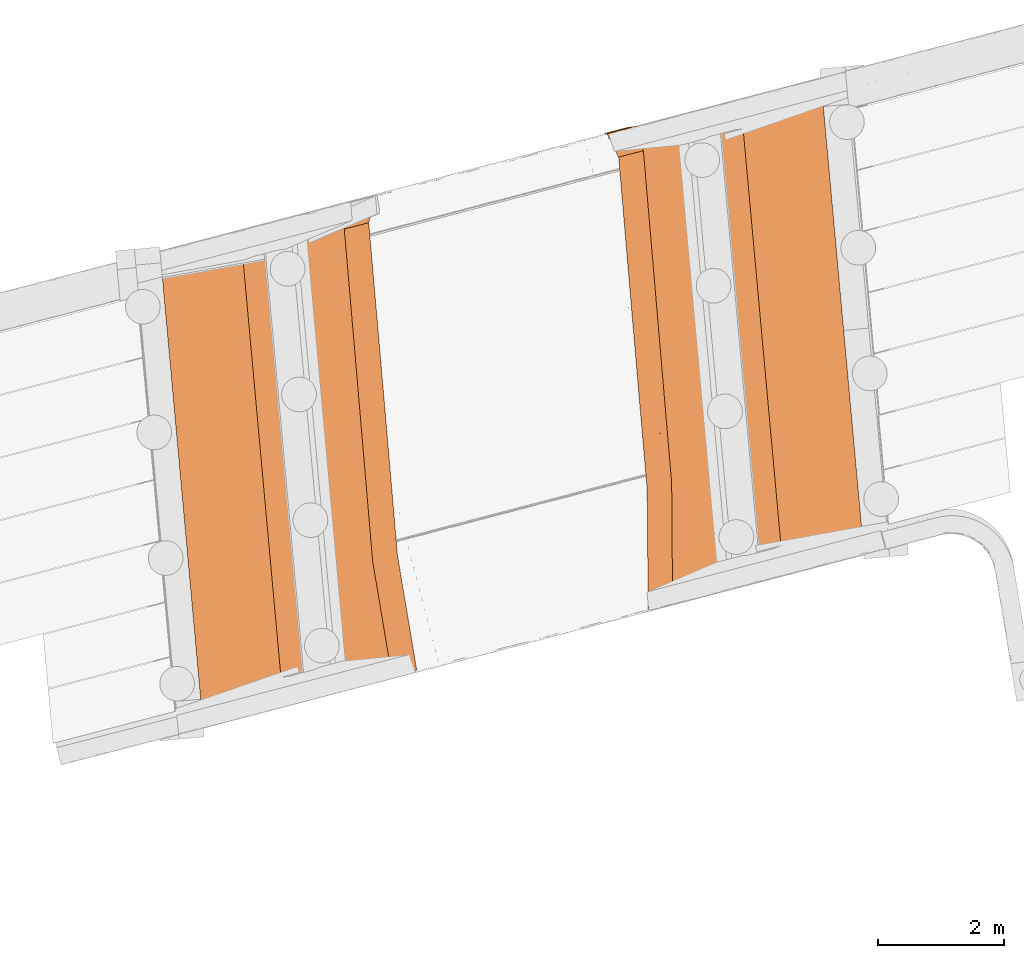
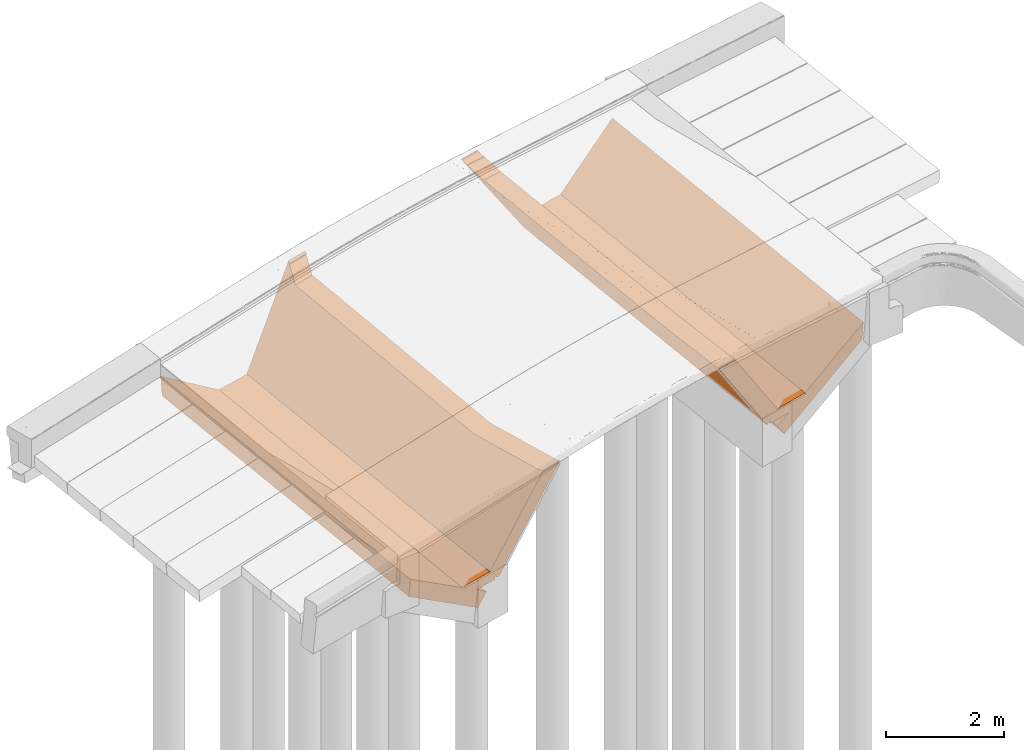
# One storey, part 15 of 15: 1 proxy.
"""IFC2X3 building model written with IfcOpenShell, lengths in millimetres."""

from ifc_helpers import new_model, entity, si_unit, converted_unit, derived_unit, direction, frame, origin, place, context, subcontext, project, spatial, faceted_brep, source, transform, mapped, material, type_object, type_shapes, element, save


model = new_model("IFC2X3")

# Units and contexts
model_context = context("Model", 3, precision=0.01, world=origin(), true_north=direction((6.12303176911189e-17, 1.0)))
body_context = subcontext(model_context, "Body", "Model", "MODEL_VIEW")
ifc_project = project(units=[si_unit("LENGTHUNIT", "METRE", prefix="MILLI"), si_unit("AREAUNIT", "SQUARE_METRE"), si_unit("VOLUMEUNIT", "CUBIC_METRE"), converted_unit("PLANEANGLEUNIT", "DEGREE", entity("IfcRatioMeasure", 0.0174532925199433), si_unit("PLANEANGLEUNIT", "RADIAN"), dimensions=[0, 0, 0, 0, 0, 0, 0]), si_unit("MASSUNIT", "GRAM", prefix="KILO"), derived_unit("MASSDENSITYUNIT", [(si_unit("MASSUNIT", "GRAM", prefix="KILO"), 1), (si_unit("LENGTHUNIT", "METRE"), -3)]), si_unit("TIMEUNIT", "SECOND"), si_unit("FREQUENCYUNIT", "HERTZ"), si_unit("THERMODYNAMICTEMPERATUREUNIT", "DEGREE_CELSIUS"), derived_unit("THERMALTRANSMITTANCEUNIT", [(si_unit("MASSUNIT", "GRAM", prefix="KILO"), 1), (si_unit("THERMODYNAMICTEMPERATUREUNIT", "KELVIN"), -1), (si_unit("TIMEUNIT", "SECOND"), -3)]), derived_unit("VOLUMETRICFLOWRATEUNIT", [(si_unit("LENGTHUNIT", "METRE"), 3), (si_unit("TIMEUNIT", "SECOND"), -1)]), si_unit("ELECTRICCURRENTUNIT", "AMPERE"), si_unit("ELECTRICVOLTAGEUNIT", "VOLT"), si_unit("POWERUNIT", "WATT"), si_unit("FORCEUNIT", "NEWTON", prefix="KILO"), si_unit("ILLUMINANCEUNIT", "LUX"), si_unit("LUMINOUSFLUXUNIT", "LUMEN"), si_unit("LUMINOUSINTENSITYUNIT", "CANDELA"), derived_unit("USERDEFINED", [(si_unit("MASSUNIT", "GRAM", prefix="KILO"), -1), (si_unit("LENGTHUNIT", "METRE"), -2), (si_unit("TIMEUNIT", "SECOND"), 3), (si_unit("LUMINOUSFLUXUNIT", "LUMEN"), 1)]), derived_unit("LINEARVELOCITYUNIT", [(si_unit("LENGTHUNIT", "METRE"), 1), (si_unit("TIMEUNIT", "SECOND"), -1)]), si_unit("PRESSUREUNIT", "PASCAL"), derived_unit("USERDEFINED", [(si_unit("LENGTHUNIT", "METRE"), -2), (si_unit("MASSUNIT", "GRAM", prefix="KILO"), 1), (si_unit("TIMEUNIT", "SECOND"), -2)])], contexts=[model_context])

# Site, building, storey
site_placement = place(None, origin())
site = spatial("IfcSite", under=ifc_project, at=site_placement, Name="Bruggen Achterburggracht Machinesloot", CompositionType="ELEMENT")
building_placement = place(site_placement, origin())
building = spatial("IfcBuilding", under=site, at=building_placement, Name="Bruggen Achterburggracht Machinesloot", CompositionType="ELEMENT")
storey_placement = place(building_placement, origin())
storey = spatial("IfcBuildingStorey", under=building, at=storey_placement, Name="00 begane grond", CompositionType="ELEMENT", Elevation=2.70716782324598e-13)

# Proxy
ifc_material = material(Name="00_PBT_MAT_beton t.p.g.")
building_element_proxy_type = type_object("IfcBuildingElementProxyType", Name="brug 1 wand 2", PredefinedType="NOTDEFINED", material=ifc_material)
shared_shape = source(origin(), body_context, "Body", "Brep", [
    faceted_brep([(1713.14463223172, 7610.12284993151, 2.00953067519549e-09), (2348.89387835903, 616.238391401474, 0.0), (2260.33549412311, 586.100991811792, 61.3283533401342), (662.98703963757, 42.5056103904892, 1167.5223209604), (28.0180274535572, 7027.80670647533, 1167.52232097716), (3.86379127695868, 7293.52772466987, 1167.5223209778), (1623.35844355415, 7593.49254028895, 61.3283533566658), (24.1578379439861, 7070.27269378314, 1553.5120644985), (666.850830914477, 0.0, 1553.51206448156), (1931.78347735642, 430.470597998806, 677.522320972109), (1307.30464440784, 7300.36911705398, 677.522320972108), (1282.47011520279, 7573.57404635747, 677.522320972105), (0.0, 7336.03333506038, 1553.51206449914), (1642.25746598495, 7640.21430737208, 431.769983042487), (2286.65082311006, 551.235888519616, 431.769983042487), (2527.04565404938, 633.044913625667, 265.292023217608), (1885.98521495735, 7685.35786445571, 265.292023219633), (2574.18967358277, 598.930258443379, 677.522320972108), (1924.87631140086, 7742.03370679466, 677.522320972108), (1617.19028774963, 7661.34849022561, 677.522320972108), (1328.52315574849, 7585.65064153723, 677.522320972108), (2266.50364992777, 518.24504187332, 677.522320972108), (2063.60151270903, 7750.70432981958, 431.769983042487), (2707.99486983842, 661.725910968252, 431.769983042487), (2062.94511608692, 7757.92535628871, 497.343495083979), (2708.65126646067, 654.504884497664, 497.343495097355), (3403.74178354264, 8320.25192405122, 2366.3788150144), (3398.37237429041, 8298.4185621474, 2355.52071377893), (3393.00170654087, 8276.58635676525, 2344.66090962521), (3400.61427419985, 8278.58261796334, 2356.16858737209), (3397.89569719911, 8267.53141575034, 2350.67147065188), (3395.17679754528, 8256.48051009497, 2345.1739173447), (3387.56299013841, 8254.4839237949, 2333.66436551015), (3372.85536962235, 8194.74578011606, 2303.93134610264), (3358.13829586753, 8135.01638714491, 2274.18554369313), (3343.41174648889, 8075.29577100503, 2244.4269287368), (3328.67569902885, 8015.58395792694, 2214.65547159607), (3313.93013095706, 7955.88097424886, 2184.8711425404), (3299.17514438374, 7896.18735076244, 2155.07416357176), (3356.42456153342, 7239.73415244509, 2151.49716752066), (3415.63848673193, 6560.75482799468, 2147.79742720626), (3531.00693716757, 5229.6385894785, 2139.4834113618), (3645.27806685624, 3902.86665900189, 2130.13229107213), (3645.7430254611, 3901.0180986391, 2130.57069017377), (3753.68094237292, 2632.62821019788, 2119.70435049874), (4054.76780099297, 837.28304301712, 2323.29330593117), (4061.69435636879, 839.099409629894, 2333.76396060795), (4065.01577786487, 819.294167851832, 2336.0098398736), (4058.08922248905, 817.477801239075, 2325.53918519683), (4060.56585998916, 802.70990606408, 2327.21383829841), (2952.74712654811, 698.200253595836, 677.522320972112), (2792.67598048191, 683.099425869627, 439.154793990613), (2148.13477811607, 7773.70429154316, 439.154793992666), (2303.43376436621, 7841.30370194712, 677.522320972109), (2305.95096355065, 7842.39940247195, 681.385955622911), (3400.73143284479, 8318.94156178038, 2361.75824492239), (3666.12892985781, 714.693148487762, 2305.27853640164), (3673.05548523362, 716.509515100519, 2315.74919107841), (3669.73406373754, 736.314756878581, 2313.50331181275), (3662.80750836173, 734.498390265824, 2303.032657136), (3361.72064974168, 2529.84355744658, 2099.44370170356), (3052.52892596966, 6163.18823596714, 2130.57069017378), (3052.06396736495, 6165.03679632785, 2130.1322910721), (2982.04735219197, 6978.9763621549, 2135.99550111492), (2911.61688476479, 7794.55705329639, 2141.46792884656), (2926.53949022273, 7854.29361219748, 2171.51815512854), (2941.45240039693, 7914.03987817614, 2201.55536939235), (2956.35550870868, 7973.7953033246, 2231.57934074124), (2971.24883850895, 8033.55986006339, 2261.59009995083), (2986.13241307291, 8093.3335209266, 2291.58767769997), (3001.0062556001, 8153.1162585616, 2321.57210457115), (3008.66505003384, 8155.12464191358, 2333.14966187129), (3011.41458034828, 8166.18357311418, 2338.69351766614), (3014.16377853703, 8177.2428119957, 2344.23692438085), (3006.50626988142, 8175.23476581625, 2332.66131075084), (3011.74892910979, 8196.32443429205, 2343.23245595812), (3016.99038123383, 8217.41522084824, 2353.80196896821), (3009.30658329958, 8214.07057435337, 2342.00815140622), (1944.27716542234, 7750.4786189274, 707.300580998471), (3668.23406727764, 702.14046415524, 2306.70198852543), (3081.43476569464, 8234.57786353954, 2356.13679939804), (3145.88500897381, 8251.73127882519, 2358.37616061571), (3210.34096590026, 8268.87542804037, 2360.52004733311), (3274.80250297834, 8286.01027565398, 2362.56845490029), (3339.26948669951, 8303.13578615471, 2364.52137887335), (3199.74234009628, 8225.90750677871, 2339.06458634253), (3131.5183567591, 8208.01697406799, 2348.10541549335), (3207.37741274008, 8227.90966951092, 2350.60604297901), (3283.2455436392, 8247.80474469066, 2352.78999402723), (3277.83420105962, 8225.70949002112, 2341.76863678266), (3125.99338830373, 8185.89192302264, 2337.04491799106), (3201.90926449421, 8205.79951856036, 2339.56529615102), (3194.27293003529, 8203.79702493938, 2328.02193090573), (3105.38263648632, 7845.36869386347, 2148.6783098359)], [[[0, 1, 2, 3, 4, 5, 6]], [[7, 8, 9, 10, 11, 12]], [[13, 14, 15, 16]], [[1, 0, 16, 15]], [[17, 18, 19, 20, 11, 10, 9, 21]], [[14, 13, 22, 23]], [[24, 25, 23, 22]], [[26, 27, 28, 29, 30, 31, 32, 33, 34, 35, 36, 37, 38, 39, 40, 41, 42, 43, 44, 45, 46, 47, 48, 49, 50, 51, 52, 53, 54, 55]], [[56, 57, 58, 59, 60, 61, 62, 63, 64, 65, 66, 67, 68, 69, 70, 71, 72, 73, 74, 75, 76, 77, 78, 18, 17, 79]], [[52, 51, 25, 24]], [[55, 54, 53, 52, 24, 22, 13, 16, 0, 6, 5, 12, 11, 20, 19, 18, 78, 77, 76, 80, 81, 82, 83, 84, 26]], [[25, 51, 50, 49, 79, 17, 21, 9, 8, 3, 2, 1, 15, 14, 23]], [[3, 8, 7, 12, 5, 4]], [[56, 79, 49, 48]], [[60, 59, 45, 44]], [[57, 56, 48, 47]], [[58, 57, 47, 46]], [[58, 46, 45, 59]], [[60, 44, 43, 61]], [[43, 42, 62, 61]], [[80, 76, 75]], [[81, 80, 75]], [[85, 75, 74]], [[81, 75, 85]], [[85, 82, 81]], [[84, 83, 27]], [[26, 84, 27]], [[85, 28, 27]], [[83, 82, 27]], [[82, 85, 27]], [[85, 74, 73, 86, 87, 88, 29, 28]], [[87, 89, 88]], [[86, 73, 72]], [[89, 31, 30]], [[72, 90, 86]], [[87, 86, 91]], [[30, 88, 89]], [[72, 71, 90]], [[87, 91, 89]], [[30, 29, 88]], [[91, 86, 90]], [[71, 70, 92, 32, 31, 89, 91, 90]], [[37, 67, 93]], [[69, 68, 35]], [[68, 67, 36]], [[93, 65, 64]], [[65, 93, 66]], [[67, 66, 93]], [[92, 70, 69]], [[35, 34, 92]], [[33, 92, 34]], [[92, 33, 32]], [[38, 37, 93]], [[37, 36, 67]], [[68, 36, 35]], [[69, 35, 92]], [[42, 41, 62]], [[93, 40, 39, 38]], [[63, 62, 41]], [[41, 40, 63]], [[93, 64, 40]], [[40, 64, 63]]]),
    faceted_brep([(8563.97688968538, 9521.69501440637, 677.522320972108), (9216.72395467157, 2340.81736360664, 677.522320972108), (9524.41050085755, 2421.5027172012, 677.522320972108), (9859.13067340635, 2509.27716106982, 677.522320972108), (9206.3836084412, 9690.15481187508, 677.522320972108), (8851.51626268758, 9569.38952135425, 431.769983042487), (9499.34332262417, 2442.63690005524, 431.769983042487), (9076.06468684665, 2331.63956585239, 431.769983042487), (8428.23762690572, 9458.39218715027, 431.769983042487), (9076.70776848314, 2324.56501768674, 496.013338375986), (8427.5945452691, 9465.46673531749, 496.01333839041), (9431.68164567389, 2473.32578663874, 2.20316677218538), (8792.45458894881, 9505.46967785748, 2.20316677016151), (8877.83159167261, 9534.52441806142, 61.3283533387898), (10475.1800461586, 10078.1197994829, 1167.52232095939), (11137.7369973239, 2789.32348275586, 1167.52232097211), (9518.24234505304, 2489.35866713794, 61.3283533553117), (11141.6007886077, 2746.81787236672, 1553.51206449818), (10471.3162548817, 10120.6254098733, 1553.51206448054), (8614.30281325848, 9488.66315563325, 267.495189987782), (9258.84106294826, 2398.09077211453, 267.495189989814), (7036.27842775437, 9314.01709667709, 2388.74828012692), (8195.25150747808, 9423.35255935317, 662.881041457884), (8345.49058278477, 9437.52584697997, 439.154793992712), (8993.46548795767, 2309.14677885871, 439.154793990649), (8838.16650170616, 2241.54736845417, 677.52232097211), (7730.70092176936, 1759.48356331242, 2377.36491414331), (7730.59546334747, 1769.99177106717, 2376.11028757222), (7730.49009687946, 1780.49996377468, 2374.85552725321), (7723.68829799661, 1778.71631234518, 2385.13759148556), (7723.58474515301, 1789.02728919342, 2383.90662223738), (7723.48128081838, 1799.33825156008, 2382.67552425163), (7730.28358468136, 1801.12203541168, 2372.39269665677), (7726.19777579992, 2216.67085700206, 2322.65342699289), (7722.25685083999, 2632.19577269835, 2272.70344852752), (7720.34103571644, 2839.94913729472, 2247.64899434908), (7716.61933613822, 3255.4376709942, 2197.38021833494), (7713.04507215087, 3670.90140992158, 2146.89708534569), (7656.22766832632, 4326.81057122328, 2142.75524964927), (7604.37735256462, 4925.37887662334, 2138.97550129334), (7496.68490368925, 6175.99429554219, 2130.13229107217), (7496.21994508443, 6177.84285590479, 2130.57069017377), (7261.56865957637, 8935.25495322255, 2106.94784616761), (7114.6362571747, 9231.8429541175, 2284.08382025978), (7106.88674472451, 9229.81078157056, 2295.79851311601), (7097.82127021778, 9248.10974706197, 2306.72749563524), (7105.57078266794, 9250.14191960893, 2295.01280277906), (7085.14073924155, 9291.38065006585, 2319.64246637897), (7081.20323476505, 9297.68572331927, 2324.6098676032), (7076.40403611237, 9302.5205702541, 2331.04686024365), (7070.96584959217, 9305.66083030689, 2338.6547363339), (7065.14103367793, 9306.96078004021, 2347.08045318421), (7059.19988833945, 9306.36009542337, 2355.93301629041), (7037.49191026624, 9300.66756219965, 2388.74828012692), (7414.83588071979, 9413.28709182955, 2388.74828012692), (7416.04936323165, 9399.93755735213, 2388.74828012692), (7451.16018097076, 9409.14474817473, 2335.67236749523), (7457.10132630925, 9409.74543279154, 2326.81980438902), (7462.92614222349, 9408.44548305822, 2318.39408753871), (7468.36432874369, 9405.30522300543, 2310.78621144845), (7473.16352739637, 9400.4703760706, 2304.34921880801), (7477.10103187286, 9394.16530281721, 2299.38181758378), (7497.53107529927, 9352.92657236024, 2274.75215398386), (7489.78156284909, 9350.8943998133, 2286.46684684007), (7498.84703735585, 9332.59543432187, 2275.53786432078), (7506.59654980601, 9334.62760686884, 2263.8231714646), (7653.52895220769, 9038.03960597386, 2086.68719737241), (8089.43404457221, 3915.67271859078, 2130.57069017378), (8089.89900317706, 3913.82415822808, 2130.13229107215), (8095.9490262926, 3843.36752382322, 2130.65575529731), (8102.00215997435, 3772.89852534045, 2131.17628626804), (8104.99964060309, 3357.28741678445, 2182.53080345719), (8108.14826644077, 2941.65024033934, 2233.66565738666), (8109.77892277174, 2733.82208643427, 2259.15117863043), (8113.1522601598, 2318.14666357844, 2309.95938505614), (8116.67408755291, 1902.44610933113, 2360.55172287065), (8109.83169100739, 1900.65181188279, 2370.89515730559), (8109.92121440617, 1890.33719440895, 2372.14732927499), (8110.01082850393, 1880.02256171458, 2373.39936937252), (8116.85270344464, 1881.81672238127, 2363.05672343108), (8116.93804254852, 1871.97516312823, 2364.2515830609), (8117.02346424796, 1862.13359001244, 2365.44632260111), (8052.64948770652, 1845.00309017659, 2367.65982174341), (7988.27010283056, 1827.88141186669, 2369.7824993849), (7923.88543300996, 1810.76858791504, 2371.81435130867), (7859.49559902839, 1793.66465044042, 2373.75537356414), (7795.10072168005, 1776.56963154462, 2375.60556237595), (7264.00027722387, 9338.283399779, 2310.39711589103), (7272.30064308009, 9362.24199848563, 2344.91771797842), (7261.14391076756, 9357.9281571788, 2335.234058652), (7276.90833077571, 9350.35689165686, 2315.64616543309), (7267.246495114, 9355.20635128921, 2324.96877639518), (7907.53913195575, 3721.90403640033, 2139.44697152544), (7923.49040227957, 1851.78710539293, 2366.87523768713), (7840.87435785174, 1830.12250926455, 2379.34106216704), (7916.66801967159, 1849.99805624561, 2377.18820019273), (7992.45258232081, 1869.87121713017, 2374.71922919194), (7992.62580627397, 1849.24041623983, 2377.21105492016), (7841.08723860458, 1809.50210766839, 2381.81548040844), (7916.86107522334, 1829.37245584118, 2379.67126087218), (7827.08652094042, 1805.83066714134, 2372.10730072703), (7923.68294500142, 1831.16137050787, 2369.35907420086), (7999.48299486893, 1851.03859264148, 2366.88602403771)], [[[0, 1, 2, 3, 4]], [[5, 6, 7, 8]], [[9, 10, 8, 7]], [[11, 12, 13, 14, 15, 16]], [[17, 18, 4, 3]], [[6, 5, 19, 20]], [[12, 11, 20, 19]], [[21, 22, 23, 24, 25, 26, 27, 28, 29, 30, 31, 32, 33, 34, 35, 36, 37, 38, 39, 40, 41, 42, 43, 44, 45, 46, 47, 48, 49, 50, 51, 52, 53]], [[0, 54, 55, 56, 57, 58, 59, 60, 61, 62, 63, 64, 65, 66, 67, 68, 69, 70, 71, 72, 73, 74, 75, 76, 77, 78, 79, 80, 81, 1]], [[24, 23, 10, 9]], [[21, 53, 55, 54]], [[3, 2, 1, 81, 82, 83, 84, 85, 86, 26, 25, 24, 9, 7, 6, 20, 11, 16, 15, 17]], [[15, 14, 18, 17]], [[14, 13, 12, 19, 5, 8, 10, 23, 22, 21, 54, 0, 4, 18]], [[66, 42, 41, 67]], [[65, 43, 42, 66]], [[46, 62, 61, 87, 47]], [[64, 44, 43, 65]], [[63, 45, 44, 64]], [[63, 62, 46, 45]], [[57, 88, 89]], [[51, 89, 88]], [[90, 48, 87]], [[88, 57, 56]], [[88, 52, 51]], [[58, 91, 59]], [[50, 49, 91]], [[48, 90, 49]], [[91, 89, 50]], [[57, 89, 58]], [[48, 47, 87]], [[87, 61, 60]], [[58, 89, 91]], [[49, 90, 91]], [[89, 51, 50]], [[91, 90, 59]], [[60, 59, 90]], [[60, 90, 87]], [[55, 53, 52, 88, 56]], [[40, 68, 67, 41]], [[37, 92, 39, 38]], [[39, 92, 70]], [[68, 39, 69]], [[40, 39, 68]], [[69, 39, 70]], [[34, 75, 74]], [[34, 74, 35]], [[93, 33, 32]], [[33, 93, 75]], [[75, 34, 33]], [[73, 36, 35]], [[71, 70, 92]], [[71, 92, 37]], [[73, 35, 74]], [[37, 72, 71]], [[73, 72, 36]], [[72, 37, 36]], [[75, 93, 32, 31, 94, 95, 96, 76]], [[95, 97, 96]], [[97, 78, 77]], [[30, 98, 94]], [[95, 94, 99]], [[77, 96, 97]], [[77, 76, 96]], [[94, 31, 30]], [[95, 99, 97]], [[30, 29, 98]], [[99, 94, 98]], [[78, 97, 99, 98, 29, 28, 100, 101, 102, 79]], [[84, 101, 85]], [[86, 85, 100]], [[26, 86, 27]], [[100, 28, 27]], [[85, 101, 100]], [[80, 102, 82]], [[80, 79, 102]], [[102, 83, 82]], [[83, 102, 101]], [[100, 27, 86]], [[81, 80, 82]], [[84, 83, 101]]]),
])
type_shapes(building_element_proxy_type, [shared_shape])
proxy_placement = place(storey_placement, frame((-73030.9465900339, 113069.115753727, -2027.52232097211)))
element("IfcBuildingElementProxy", 1, at=proxy_placement, inside=storey, type_object=building_element_proxy_type, material=ifc_material, Name="brug 1 wand 4:brug 1 wand 2", ObjectType="brug 1 wand 4:brug 1 wand 2", context=body_context, shape_type="MappedRepresentation", body=[
    mapped(shared_shape, transform((0.0, 0.0, 0.0), scale=1.0)),
])

save(model, "model.ifc")
